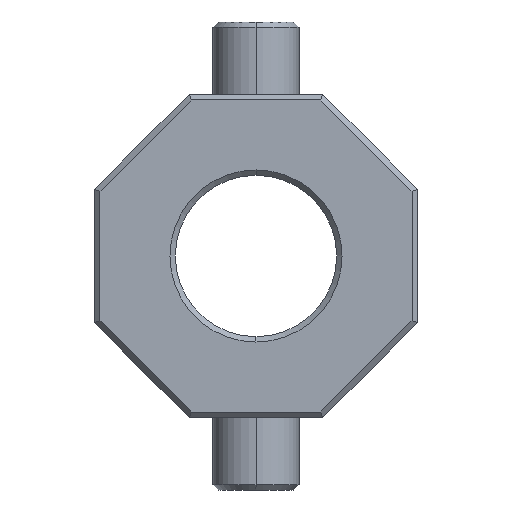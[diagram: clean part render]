
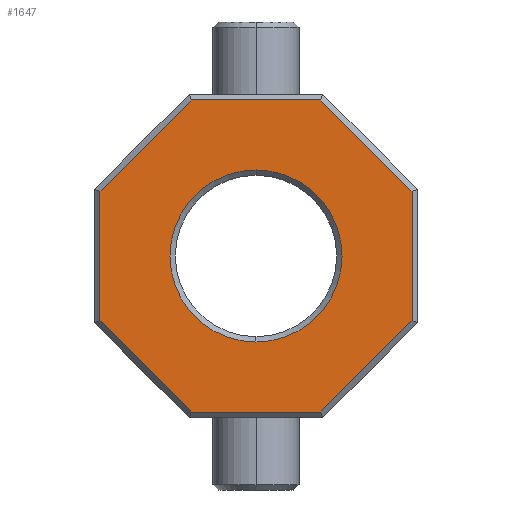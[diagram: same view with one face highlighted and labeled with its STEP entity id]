
A CAD part, left-side view. The second image highlights one B-rep face of the part: STEP entity #1647.
In plain terms, the highlighted planar face has unit normal (-1, 0, 0).
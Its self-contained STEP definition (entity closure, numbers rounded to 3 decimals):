
#54 = PLANE ( 'NONE',  #1617 ) ;
#94 = CARTESIAN_POINT ( 'NONE',  ( -12.5, 0., 16. ) ) ;
#101 = ORIENTED_EDGE ( 'NONE', *, *, #295, .T. ) ;
#143 = DIRECTION ( 'NONE',  ( 0., 0.707, -0.707 ) ) ;
#149 = VECTOR ( 'NONE', #464, 1000. ) ;
#240 = VERTEX_POINT ( 'NONE', #1361 ) ;
#261 = ORIENTED_EDGE ( 'NONE', *, *, #1903, .T. ) ;
#289 = CARTESIAN_POINT ( 'NONE',  ( -12.5, -29., 0. ) ) ;
#295 = EDGE_CURVE ( 'NONE', #1570, #1834, #1016, .T. ) ;
#352 = ORIENTED_EDGE ( 'NONE', *, *, #1764, .T. ) ;
#373 = VECTOR ( 'NONE', #708, 1000. ) ;
#374 = CARTESIAN_POINT ( 'NONE',  ( -12.5, 0., -16. ) ) ;
#402 = EDGE_CURVE ( 'NONE', #719, #503, #1672, .T. ) ;
#445 = CARTESIAN_POINT ( 'NONE',  ( -12.5, 29., -12.012 ) ) ;
#449 = CARTESIAN_POINT ( 'NONE',  ( -12.5, 20.506, 20.506 ) ) ;
#461 = ORIENTED_EDGE ( 'NONE', *, *, #2057, .T. ) ;
#464 = DIRECTION ( 'NONE',  ( 0., -0.707, -0.707 ) ) ;
#466 = EDGE_CURVE ( 'NONE', #604, #240, #1368, .T. ) ;
#468 = AXIS2_PLACEMENT_3D ( 'NONE', #1163, #1943, #553 ) ;
#503 = VERTEX_POINT ( 'NONE', #94 ) ;
#516 = DIRECTION ( 'NONE',  ( -1., 0., 0. ) ) ;
#553 = DIRECTION ( 'NONE',  ( 0., 0., 1. ) ) ;
#569 = EDGE_CURVE ( 'NONE', #240, #1570, #1488, .T. ) ;
#604 = VERTEX_POINT ( 'NONE', #933 ) ;
#623 = ORIENTED_EDGE ( 'NONE', *, *, #569, .T. ) ;
#644 = LINE ( 'NONE', #1737, #1551 ) ;
#657 = LINE ( 'NONE', #1433, #1510 ) ;
#691 = ORIENTED_EDGE ( 'NONE', *, *, #466, .T. ) ;
#708 = DIRECTION ( 'NONE',  ( 0., 1., 0. ) ) ;
#719 = VERTEX_POINT ( 'NONE', #374 ) ;
#739 = EDGE_LOOP ( 'NONE', ( #1845, #1165 ) ) ;
#831 = CARTESIAN_POINT ( 'NONE',  ( -12.5, 0., 0. ) ) ;
#861 = VECTOR ( 'NONE', #143, 1000. ) ;
#874 = CARTESIAN_POINT ( 'NONE',  ( -12.5, 0., 0. ) ) ;
#906 = VECTOR ( 'NONE', #1540, 1000. ) ;
#933 = CARTESIAN_POINT ( 'NONE',  ( -12.5, -29., 12.012 ) ) ;
#954 = DIRECTION ( 'NONE',  ( 0., 0., -1. ) ) ;
#998 = VERTEX_POINT ( 'NONE', #1328 ) ;
#1009 = DIRECTION ( 'NONE',  ( 0., 0., 1. ) ) ;
#1016 = LINE ( 'NONE', #449, #861 ) ;
#1036 = FACE_OUTER_BOUND ( 'NONE', #1307, .T. ) ;
#1077 = CARTESIAN_POINT ( 'NONE',  ( -12.5, -12.012, -29. ) ) ;
#1096 = LINE ( 'NONE', #289, #906 ) ;
#1139 = VERTEX_POINT ( 'NONE', #1752 ) ;
#1159 = LINE ( 'NONE', #1777, #1397 ) ;
#1163 = CARTESIAN_POINT ( 'NONE',  ( -12.5, 0., 0. ) ) ;
#1165 = ORIENTED_EDGE ( 'NONE', *, *, #402, .T. ) ;
#1181 = CARTESIAN_POINT ( 'NONE',  ( -12.5, 0., 29. ) ) ;
#1243 = LINE ( 'NONE', #1877, #149 ) ;
#1292 = DIRECTION ( 'NONE',  ( 0., -1., 0. ) ) ;
#1299 = DIRECTION ( 'NONE',  ( 0., 0., 1. ) ) ;
#1307 = EDGE_LOOP ( 'NONE', ( #623, #101, #1539, #1855, #261, #461, #352, #691 ) ) ;
#1321 = DIRECTION ( 'NONE',  ( 0., 0.707, 0.707 ) ) ;
#1328 = CARTESIAN_POINT ( 'NONE',  ( -12.5, -29., -12.012 ) ) ;
#1361 = CARTESIAN_POINT ( 'NONE',  ( -12.5, -12.012, 29. ) ) ;
#1368 = LINE ( 'NONE', #1636, #1787 ) ;
#1397 = VECTOR ( 'NONE', #1953, 1000. ) ;
#1433 = CARTESIAN_POINT ( 'NONE',  ( -12.5, 0., -29. ) ) ;
#1488 = LINE ( 'NONE', #1181, #373 ) ;
#1510 = VECTOR ( 'NONE', #1292, 1000. ) ;
#1512 = FACE_BOUND ( 'NONE', #739, .T. ) ;
#1539 = ORIENTED_EDGE ( 'NONE', *, *, #1927, .T. ) ;
#1540 = DIRECTION ( 'NONE',  ( 0., 0., 1. ) ) ;
#1551 = VECTOR ( 'NONE', #954, 1000. ) ;
#1570 = VERTEX_POINT ( 'NONE', #1793 ) ;
#1589 = CARTESIAN_POINT ( 'NONE',  ( -12.5, 29., 12.012 ) ) ;
#1600 = EDGE_CURVE ( 'NONE', #503, #719, #1984, .T. ) ;
#1617 = AXIS2_PLACEMENT_3D ( 'NONE', #874, #516, #1009 ) ;
#1636 = CARTESIAN_POINT ( 'NONE',  ( -12.5, -20.506, 20.506 ) ) ;
#1647 = ADVANCED_FACE ( 'NONE', ( #1036, #1512 ), #54, .T. ) ;
#1672 = CIRCLE ( 'NONE', #2037, 16. ) ;
#1721 = VERTEX_POINT ( 'NONE', #1077 ) ;
#1737 = CARTESIAN_POINT ( 'NONE',  ( -12.5, 29., 0. ) ) ;
#1752 = CARTESIAN_POINT ( 'NONE',  ( -12.5, 12.012, -29. ) ) ;
#1759 = VERTEX_POINT ( 'NONE', #445 ) ;
#1764 = EDGE_CURVE ( 'NONE', #998, #604, #1096, .T. ) ;
#1777 = CARTESIAN_POINT ( 'NONE',  ( -12.5, -20.506, -20.506 ) ) ;
#1787 = VECTOR ( 'NONE', #1321, 1000. ) ;
#1793 = CARTESIAN_POINT ( 'NONE',  ( -12.5, 12.012, 29. ) ) ;
#1795 = EDGE_CURVE ( 'NONE', #1759, #1139, #1243, .T. ) ;
#1834 = VERTEX_POINT ( 'NONE', #1589 ) ;
#1845 = ORIENTED_EDGE ( 'NONE', *, *, #1600, .T. ) ;
#1855 = ORIENTED_EDGE ( 'NONE', *, *, #1795, .T. ) ;
#1877 = CARTESIAN_POINT ( 'NONE',  ( -12.5, 20.506, -20.506 ) ) ;
#1899 = DIRECTION ( 'NONE',  ( 1., 0., 0. ) ) ;
#1903 = EDGE_CURVE ( 'NONE', #1139, #1721, #657, .T. ) ;
#1927 = EDGE_CURVE ( 'NONE', #1834, #1759, #644, .T. ) ;
#1943 = DIRECTION ( 'NONE',  ( 1., 0., 0. ) ) ;
#1953 = DIRECTION ( 'NONE',  ( 0., -0.707, 0.707 ) ) ;
#1984 = CIRCLE ( 'NONE', #468, 16. ) ;
#2037 = AXIS2_PLACEMENT_3D ( 'NONE', #831, #1899, #1299 ) ;
#2057 = EDGE_CURVE ( 'NONE', #1721, #998, #1159, .T. ) ;
